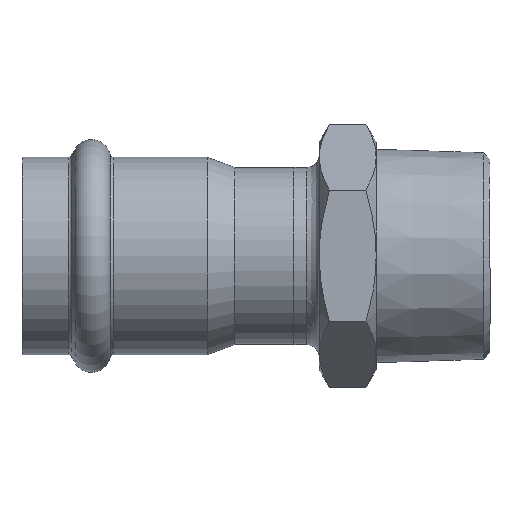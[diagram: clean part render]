
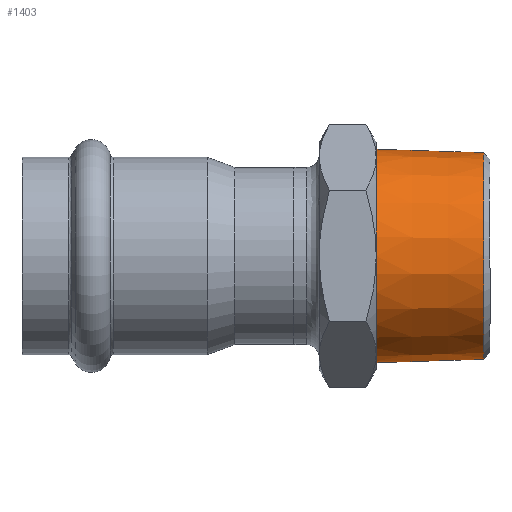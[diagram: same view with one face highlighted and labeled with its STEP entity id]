
A CAD part, top view. The second image highlights one B-rep face of the part: STEP entity #1403.
In plain terms, the highlighted conical face has half-angle 1.79 degrees and reference radius 16.575 mm.
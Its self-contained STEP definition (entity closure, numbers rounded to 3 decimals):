
#1361=CARTESIAN_POINT('',(-16.331,0.,-1.));
#1362=VERTEX_POINT('',#1361);
#1363=CARTESIAN_POINT('',(0.0,0.,-1.));
#1364=DIRECTION('',(0.0,0.0,1.0));
#1365=DIRECTION('',(1.0,0.0,0.0));
#1366=AXIS2_PLACEMENT_3D('',#1363,#1364,#1365);
#1367=CIRCLE('',#1366,16.331);
#1368=EDGE_CURVE('',#1362,#1362,#1367,.T.);
#1384=CARTESIAN_POINT('',(0.0,0.0,-8.818));
#1385=DIRECTION('',(0.0,0.0,-1.0));
#1386=DIRECTION('',(1.0,0.0,0.0));
#1387=AXIS2_PLACEMENT_3D('',#1384,#1385,#1386);
#1388=CONICAL_SURFACE('',#1387,16.575,1.79);
#1389=CARTESIAN_POINT('',(16.862,0.0,-18.));
#1390=VERTEX_POINT('',#1389);
#1391=CARTESIAN_POINT('',(0.0,0.0,-18.));
#1392=DIRECTION('',(0.0,0.0,-1.0));
#1393=DIRECTION('',(1.0,0.0,0.0));
#1394=AXIS2_PLACEMENT_3D('',#1391,#1392,#1393);
#1395=CIRCLE('',#1394,16.862);
#1396=EDGE_CURVE('',#1390,#1390,#1395,.T.);
#1397=ORIENTED_EDGE('',*,*,#1396,.F.);
#1398=EDGE_LOOP('',(#1397));
#1399=FACE_OUTER_BOUND('',#1398,.T.);
#1400=ORIENTED_EDGE('',*,*,#1368,.F.);
#1401=EDGE_LOOP('',(#1400));
#1402=FACE_BOUND('',#1401,.T.);
#1403=ADVANCED_FACE('',(#1399,#1402),#1388,.T.);
